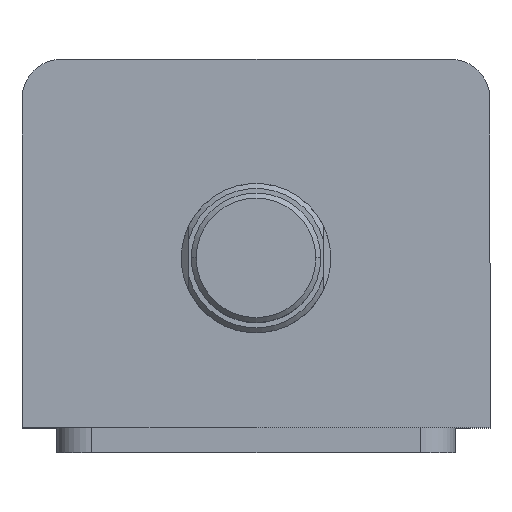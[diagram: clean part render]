
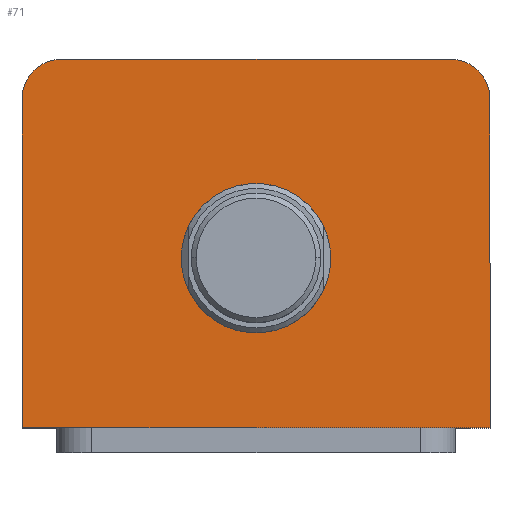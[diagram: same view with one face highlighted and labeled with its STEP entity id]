
A CAD part, top view. The second image highlights one B-rep face of the part: STEP entity #71.
In plain terms, the highlighted planar face has unit normal (0, 0, 1).
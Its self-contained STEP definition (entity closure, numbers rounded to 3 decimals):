
#71 = ADVANCED_FACE ( 'NONE', ( #2393, #2390 ), #621, .T. ) ;
#381 = CARTESIAN_POINT ( 'NONE',  ( -47., 29., 75. ) ) ;
#514 = EDGE_CURVE ( 'NONE', #1542, #1543, #2372, .T. ) ;
#554 = EDGE_CURVE ( 'NONE', #1365, #3095, #847, .T. ) ;
#558 = EDGE_CURVE ( 'NONE', #3095, #1529, #841, .T. ) ;
#560 = EDGE_CURVE ( 'NONE', #1363, #1365, #2565, .T. ) ;
#575 = EDGE_CURVE ( 'NONE', #1524, #1620, #2147, .T. ) ;
#590 = EDGE_CURVE ( 'NONE', #1529, #1524, #2143, .T. ) ;
#618 = DIRECTION ( 'NONE',  ( 0., 0., 1. ) ) ;
#621 = PLANE ( 'NONE',  #1993 ) ;
#632 = CARTESIAN_POINT ( 'NONE',  ( 0., 0., 75. ) ) ;
#645 = DIRECTION ( 'NONE',  ( 1., 0., 0. ) ) ;
#765 = DIRECTION ( 'NONE',  ( 0., 0., 1. ) ) ;
#766 = CARTESIAN_POINT ( 'NONE',  ( 0., -3., 75. ) ) ;
#773 = DIRECTION ( 'NONE',  ( 1., 0., 0. ) ) ;
#838 = VECTOR ( 'NONE', #2250, 1000. ) ;
#841 = LINE ( 'NONE', #2253, #838 ) ;
#847 = CIRCLE ( 'NONE', #1154, 8. ) ;
#1154 = AXIS2_PLACEMENT_3D ( 'NONE', #2272, #2270, #2267 ) ;
#1170 = AXIS2_PLACEMENT_3D ( 'NONE', #2481, #2477, #2476 ) ;
#1183 = AXIS2_PLACEMENT_3D ( 'NONE', #1497, #1494, #1493 ) ;
#1363 = VERTEX_POINT ( 'NONE', #2262 ) ;
#1365 = VERTEX_POINT ( 'NONE', #2261 ) ;
#1493 = DIRECTION ( 'NONE',  ( 1., 0., 0. ) ) ;
#1494 = DIRECTION ( 'NONE',  ( 0., 0., 1. ) ) ;
#1497 = CARTESIAN_POINT ( 'NONE',  ( 0., -3., 75. ) ) ;
#1524 = VERTEX_POINT ( 'NONE', #2245 ) ;
#1529 = VERTEX_POINT ( 'NONE', #2239 ) ;
#1542 = VERTEX_POINT ( 'NONE', #2220 ) ;
#1543 = VERTEX_POINT ( 'NONE', #2219 ) ;
#1620 = VERTEX_POINT ( 'NONE', #2483 ) ;
#1809 = EDGE_CURVE ( 'NONE', #1620, #1363, #2086, .T. ) ;
#1831 = EDGE_CURVE ( 'NONE', #1543, #1542, #2055, .T. ) ;
#1993 = AXIS2_PLACEMENT_3D ( 'NONE', #632, #618, #645 ) ;
#1999 = AXIS2_PLACEMENT_3D ( 'NONE', #766, #765, #773 ) ;
#2055 = CIRCLE ( 'NONE', #1183, 15. ) ;
#2086 = CIRCLE ( 'NONE', #1170, 8. ) ;
#2113 = VECTOR ( 'NONE', #2271, 1000. ) ;
#2143 = LINE ( 'NONE', #2328, #2113 ) ;
#2144 = VECTOR ( 'NONE', #2320, 1000. ) ;
#2147 = LINE ( 'NONE', #2321, #2144 ) ;
#2219 = CARTESIAN_POINT ( 'NONE',  ( -15., -3., 75. ) ) ;
#2220 = CARTESIAN_POINT ( 'NONE',  ( 15., -3., 75. ) ) ;
#2232 = DIRECTION ( 'NONE',  ( -1., 0., 0. ) ) ;
#2238 = CARTESIAN_POINT ( 'NONE',  ( -47., 37., 75. ) ) ;
#2239 = CARTESIAN_POINT ( 'NONE',  ( -47., -37., 75. ) ) ;
#2245 = CARTESIAN_POINT ( 'NONE',  ( 47., -37., 75. ) ) ;
#2250 = DIRECTION ( 'NONE',  ( 0., -1., 0. ) ) ;
#2253 = CARTESIAN_POINT ( 'NONE',  ( -47., 37., 75. ) ) ;
#2261 = CARTESIAN_POINT ( 'NONE',  ( -39., 37., 75. ) ) ;
#2262 = CARTESIAN_POINT ( 'NONE',  ( 39., 37., 75. ) ) ;
#2267 = DIRECTION ( 'NONE',  ( 1., 0., 0. ) ) ;
#2270 = DIRECTION ( 'NONE',  ( 0., 0., 1. ) ) ;
#2271 = DIRECTION ( 'NONE',  ( 1., 0., 0. ) ) ;
#2272 = CARTESIAN_POINT ( 'NONE',  ( -39., 29., 75. ) ) ;
#2320 = DIRECTION ( 'NONE',  ( 0., 1., 0. ) ) ;
#2321 = CARTESIAN_POINT ( 'NONE',  ( 47., 37., 75. ) ) ;
#2328 = CARTESIAN_POINT ( 'NONE',  ( -47., -37., 75. ) ) ;
#2342 = VECTOR ( 'NONE', #2232, 1000. ) ;
#2372 = CIRCLE ( 'NONE', #1999, 15. ) ;
#2390 = FACE_OUTER_BOUND ( 'NONE', #2670, .T. ) ;
#2393 = FACE_BOUND ( 'NONE', #2725, .T. ) ;
#2476 = DIRECTION ( 'NONE',  ( 1., 0., 0. ) ) ;
#2477 = DIRECTION ( 'NONE',  ( 0., 0., 1. ) ) ;
#2481 = CARTESIAN_POINT ( 'NONE',  ( 39., 29., 75. ) ) ;
#2483 = CARTESIAN_POINT ( 'NONE',  ( 47., 29., 75. ) ) ;
#2565 = LINE ( 'NONE', #2238, #2342 ) ;
#2670 = EDGE_LOOP ( 'NONE', ( #2700, #2701, #2702, #2703, #2704, #2705 ) ) ;
#2698 = ORIENTED_EDGE ( 'NONE', *, *, #514, .F. ) ;
#2699 = ORIENTED_EDGE ( 'NONE', *, *, #1831, .F. ) ;
#2700 = ORIENTED_EDGE ( 'NONE', *, *, #560, .T. ) ;
#2701 = ORIENTED_EDGE ( 'NONE', *, *, #554, .T. ) ;
#2702 = ORIENTED_EDGE ( 'NONE', *, *, #558, .T. ) ;
#2703 = ORIENTED_EDGE ( 'NONE', *, *, #590, .T. ) ;
#2704 = ORIENTED_EDGE ( 'NONE', *, *, #575, .T. ) ;
#2705 = ORIENTED_EDGE ( 'NONE', *, *, #1809, .T. ) ;
#2725 = EDGE_LOOP ( 'NONE', ( #2698, #2699 ) ) ;
#3095 = VERTEX_POINT ( 'NONE', #381 ) ;
